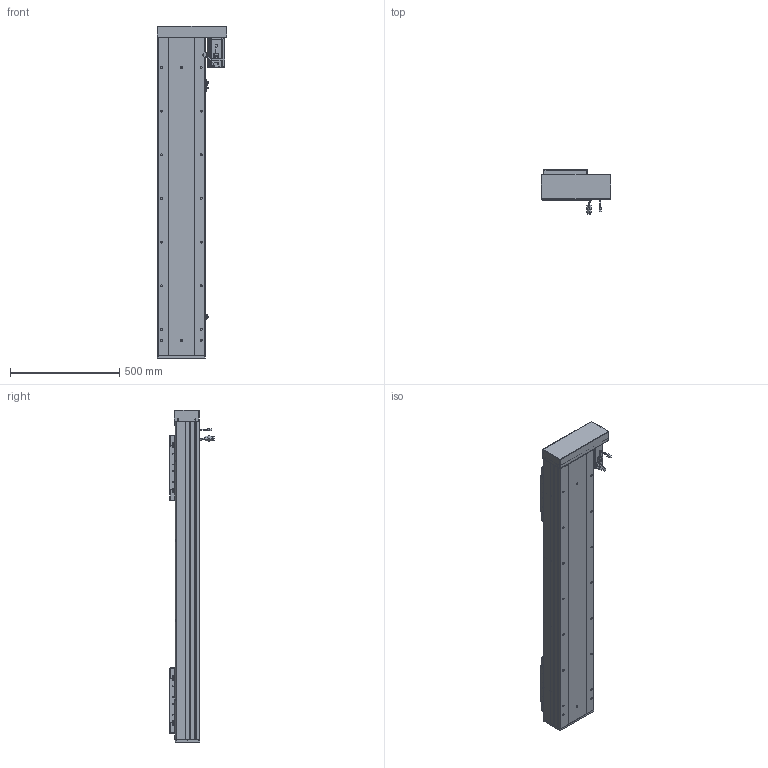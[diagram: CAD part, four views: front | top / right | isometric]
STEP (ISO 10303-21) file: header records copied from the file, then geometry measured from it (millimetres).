
FILE_DESCRIPTION (( 'STEP AP203' ), '1' );
FILE_NAME ('RY220F-L2525-300-RK.SLDASM_1050.step', '2022-07-04T01:35:23', ( '' ), ( '' ), 'SwSTEP 2.0', 'SolidWorks 2016', '' );
FILE_SCHEMA (( 'CONFIG_CONTROL_DESIGN' ));
Length unit declared in the file: millimetre
Products named in the file (15): RY220F-祥凄詩湍-蛌殏-300_1050; RY220F-L2525-300-RK.SLDASM_1050; RY220F-滅鳥奻裔; RY220F蛌殏菁釱-300_1050; 怢湛750W_ECMA-CX0807ES; RY220F-672覜茼んえ; 侐源滅袉蝶; RY220F-蛌殏奻裔啣-300_1050; RY220左右折电机安装板; RY220酘衵殏萇儂欶; 覜茼ん672; RY220F臏賑釱25-32佪裝; 滅袉蝶18-24; RY220F-詩湍揤踡輸; RY220F綴裔啣
Assembly tree (24 placements, depth 2):
  RY220F-L2525-300-RK.SLDASM_1050
    RY220F蛌殏菁釱-300_1050
    RY220F-蛌殏奻裔啣-300_1050  x2
    怢湛750W_ECMA-CX0807ES
    RY220F臏賑釱25-32佪裝  x2
    RY220F-滅鳥奻裔  x2
    滅袉蝶18-24  x3
    RY220F綴裔啣
    RY220F-祥凄詩湍-蛌殏-300_1050
    RY220F-詩湍揤踡輸  x2
    覜茼ん672  x3
    RY220F-672覜茼んえ  x2
    RY220左右折电机安装板
    RY220酘衵殏萇儂欶
    侐源滅袉蝶  x2
Bounding box: 317.5 x 205.27 x 1521 mm (x, y, z)
Volume: 14782340.6 mm3; surface area: 3862850 mm2
Topology: 25 solids, 25 shells, 2740 faces, 7460 edges, 4626 vertices
Faces by surface type: cylinder 1234, plane 1044, cone 391, bspline 45, sphere 16, torus 10
Entity records: 67960 total; most frequent: CARTESIAN_POINT 18527, ORIENTED_EDGE 9998, DIRECTION 9692, EDGE_CURVE 4999, AXIS2_PLACEMENT_3D 3442, VERTEX_POINT 3242, VECTOR 2808, LINE 2808
